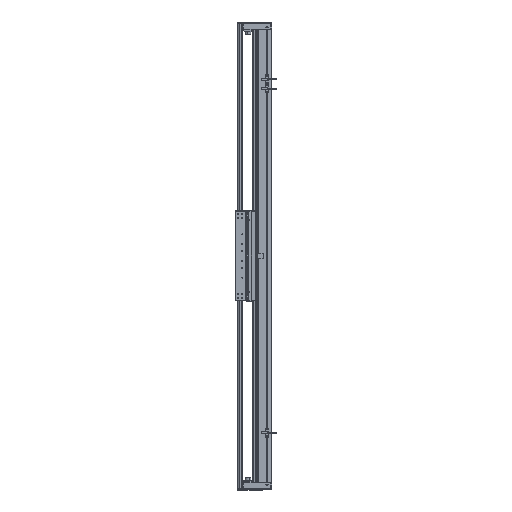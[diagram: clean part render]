
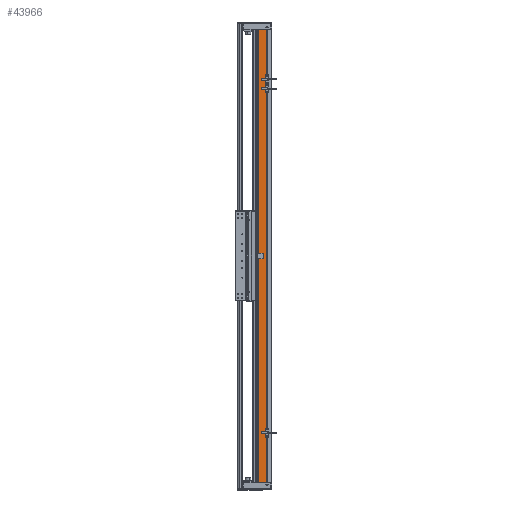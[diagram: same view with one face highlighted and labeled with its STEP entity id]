
A CAD part, left-side view. The second image highlights one B-rep face of the part: STEP entity #43966.
In plain terms, the highlighted planar face has unit normal (-1, 0, 0).
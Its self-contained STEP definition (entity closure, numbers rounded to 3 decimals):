
#6246 = LINE ( 'NONE', #142668, #107325 ) ;
#8534 = PLANE ( 'NONE',  #9636 ) ;
#9107 = VECTOR ( 'NONE', #144304, 1000. ) ;
#9636 = AXIS2_PLACEMENT_3D ( 'NONE', #65971, #33127, #98739 ) ;
#10603 = CARTESIAN_POINT ( 'NONE',  ( -97.5, 14.45, -630. ) ) ;
#18348 = LINE ( 'NONE', #29526, #9107 ) ;
#19677 = EDGE_LOOP ( 'NONE', ( #102019, #117456, #74121, #132147 ) ) ;
#22081 = CARTESIAN_POINT ( 'NONE',  ( -97.5, 14.45, 630. ) ) ;
#27344 = DIRECTION ( 'NONE',  ( 0., 0., -1. ) ) ;
#29526 = CARTESIAN_POINT ( 'NONE',  ( -97.5, 36.95, 630. ) ) ;
#33127 = DIRECTION ( 'NONE',  ( 1., 0., 0. ) ) ;
#40556 = DIRECTION ( 'NONE',  ( 0., 0., -1. ) ) ;
#40643 = CARTESIAN_POINT ( 'NONE',  ( -97.5, 36.95, -630. ) ) ;
#43966 = ADVANCED_FACE ( 'NONE', ( #77128 ), #8534, .F. ) ;
#50842 = VERTEX_POINT ( 'NONE', #121437 ) ;
#52654 = LINE ( 'NONE', #142858, #132297 ) ;
#65971 = CARTESIAN_POINT ( 'NONE',  ( -97.5, 36.95, 630. ) ) ;
#70709 = DIRECTION ( 'NONE',  ( 0., -1., 0. ) ) ;
#74121 = ORIENTED_EDGE ( 'NONE', *, *, #76004, .F. ) ;
#76004 = EDGE_CURVE ( 'NONE', #50842, #139210, #18348, .T. ) ;
#77128 = FACE_OUTER_BOUND ( 'NONE', #19677, .T. ) ;
#79658 = LINE ( 'NONE', #104943, #124474 ) ;
#81248 = VERTEX_POINT ( 'NONE', #40643 ) ;
#97399 = EDGE_CURVE ( 'NONE', #50842, #81248, #6246, .T. ) ;
#98739 = DIRECTION ( 'NONE',  ( 0., 1., 0. ) ) ;
#102019 = ORIENTED_EDGE ( 'NONE', *, *, #114820, .T. ) ;
#104943 = CARTESIAN_POINT ( 'NONE',  ( -97.5, 36.95, -630. ) ) ;
#107325 = VECTOR ( 'NONE', #40556, 1000. ) ;
#109195 = VERTEX_POINT ( 'NONE', #10603 ) ;
#114820 = EDGE_CURVE ( 'NONE', #81248, #109195, #79658, .T. ) ;
#117456 = ORIENTED_EDGE ( 'NONE', *, *, #119693, .F. ) ;
#119693 = EDGE_CURVE ( 'NONE', #139210, #109195, #52654, .T. ) ;
#121437 = CARTESIAN_POINT ( 'NONE',  ( -97.5, 36.95, 630. ) ) ;
#124474 = VECTOR ( 'NONE', #70709, 1000. ) ;
#132147 = ORIENTED_EDGE ( 'NONE', *, *, #97399, .T. ) ;
#132297 = VECTOR ( 'NONE', #27344, 1000. ) ;
#139210 = VERTEX_POINT ( 'NONE', #22081 ) ;
#142668 = CARTESIAN_POINT ( 'NONE',  ( -97.5, 36.95, 630. ) ) ;
#142858 = CARTESIAN_POINT ( 'NONE',  ( -97.5, 14.45, 630. ) ) ;
#144304 = DIRECTION ( 'NONE',  ( 0., -1., 0. ) ) ;
